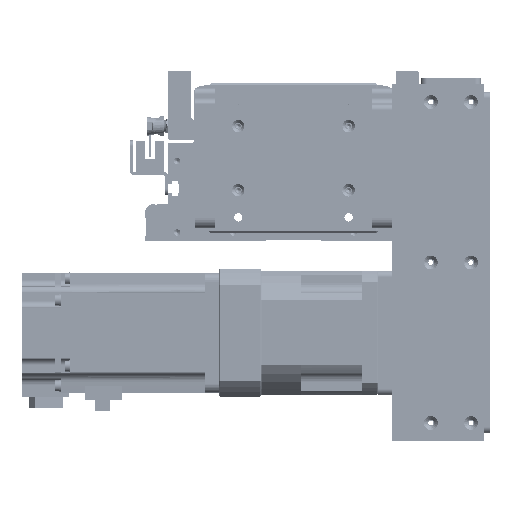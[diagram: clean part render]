
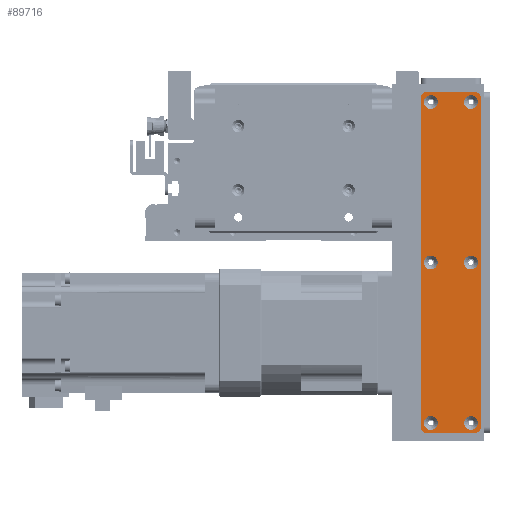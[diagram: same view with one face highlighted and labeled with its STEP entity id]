
A CAD part, front view. The second image highlights one B-rep face of the part: STEP entity #89716.
In plain terms, the highlighted planar face has unit normal (0, -1, 0).
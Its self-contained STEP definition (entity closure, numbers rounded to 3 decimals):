
#2672=FACE_BOUND('',#16628,.T.);
#2673=FACE_BOUND('',#16629,.T.);
#2674=FACE_BOUND('',#16630,.T.);
#2675=FACE_BOUND('',#16631,.T.);
#2676=FACE_BOUND('',#16632,.T.);
#2677=FACE_BOUND('',#16633,.T.);
#5465=CIRCLE('',#97845,3.45);
#5468=CIRCLE('',#97850,3.45);
#5471=CIRCLE('',#97855,3.45);
#5474=CIRCLE('',#97860,3.45);
#5477=CIRCLE('',#97865,3.45);
#5480=CIRCLE('',#97870,3.45);
#5483=CIRCLE('',#97875,3.);
#5485=CIRCLE('',#97878,3.);
#5486=CIRCLE('',#97879,3.);
#5487=CIRCLE('',#97880,3.);
#11223=FACE_OUTER_BOUND('',#16627,.T.);
#16627=EDGE_LOOP('',(#81864,#81865,#81866,#81867,#81868,#81869,#81870,#81871));
#16628=EDGE_LOOP('',(#81872));
#16629=EDGE_LOOP('',(#81873));
#16630=EDGE_LOOP('',(#81874));
#16631=EDGE_LOOP('',(#81875));
#16632=EDGE_LOOP('',(#81876));
#16633=EDGE_LOOP('',(#81877));
#26087=LINE('',#152508,#35540);
#26088=LINE('',#152512,#35541);
#26089=LINE('',#152516,#35542);
#26090=LINE('',#152519,#35543);
#35540=VECTOR('',#122232,10.);
#35541=VECTOR('',#122235,10.);
#35542=VECTOR('',#122238,10.);
#35543=VECTOR('',#122241,10.);
#43933=VERTEX_POINT('',#152438);
#43936=VERTEX_POINT('',#152448);
#43939=VERTEX_POINT('',#152458);
#43942=VERTEX_POINT('',#152468);
#43945=VERTEX_POINT('',#152478);
#43948=VERTEX_POINT('',#152488);
#43951=VERTEX_POINT('',#152498);
#43952=VERTEX_POINT('',#152499);
#43955=VERTEX_POINT('',#152507);
#43956=VERTEX_POINT('',#152509);
#43957=VERTEX_POINT('',#152511);
#43958=VERTEX_POINT('',#152513);
#43959=VERTEX_POINT('',#152515);
#43960=VERTEX_POINT('',#152517);
#56564=EDGE_CURVE('',#43933,#43933,#5465,.T.);
#56569=EDGE_CURVE('',#43936,#43936,#5468,.T.);
#56574=EDGE_CURVE('',#43939,#43939,#5471,.T.);
#56579=EDGE_CURVE('',#43942,#43942,#5474,.T.);
#56584=EDGE_CURVE('',#43945,#43945,#5477,.T.);
#56589=EDGE_CURVE('',#43948,#43948,#5480,.T.);
#56594=EDGE_CURVE('',#43951,#43952,#5483,.T.);
#56598=EDGE_CURVE('',#43951,#43955,#26087,.T.);
#56599=EDGE_CURVE('',#43956,#43955,#5485,.T.);
#56600=EDGE_CURVE('',#43956,#43957,#26088,.T.);
#56601=EDGE_CURVE('',#43958,#43957,#5486,.T.);
#56602=EDGE_CURVE('',#43958,#43959,#26089,.T.);
#56603=EDGE_CURVE('',#43960,#43959,#5487,.T.);
#56604=EDGE_CURVE('',#43960,#43952,#26090,.T.);
#81864=ORIENTED_EDGE('',*,*,#56594,.F.);
#81865=ORIENTED_EDGE('',*,*,#56598,.T.);
#81866=ORIENTED_EDGE('',*,*,#56599,.F.);
#81867=ORIENTED_EDGE('',*,*,#56600,.T.);
#81868=ORIENTED_EDGE('',*,*,#56601,.F.);
#81869=ORIENTED_EDGE('',*,*,#56602,.T.);
#81870=ORIENTED_EDGE('',*,*,#56603,.F.);
#81871=ORIENTED_EDGE('',*,*,#56604,.T.);
#81872=ORIENTED_EDGE('',*,*,#56564,.T.);
#81873=ORIENTED_EDGE('',*,*,#56569,.T.);
#81874=ORIENTED_EDGE('',*,*,#56574,.T.);
#81875=ORIENTED_EDGE('',*,*,#56579,.T.);
#81876=ORIENTED_EDGE('',*,*,#56584,.T.);
#81877=ORIENTED_EDGE('',*,*,#56589,.T.);
#85085=PLANE('',#97877);
#89716=ADVANCED_FACE('',(#11223,#2672,#2673,#2674,#2675,#2676,#2677),#85085,
 .T.);
#97845=AXIS2_PLACEMENT_3D('',#152439,#122152,#122153);
#97850=AXIS2_PLACEMENT_3D('',#152449,#122164,#122165);
#97855=AXIS2_PLACEMENT_3D('',#152459,#122176,#122177);
#97860=AXIS2_PLACEMENT_3D('',#152469,#122188,#122189);
#97865=AXIS2_PLACEMENT_3D('',#152479,#122200,#122201);
#97870=AXIS2_PLACEMENT_3D('',#152489,#122212,#122213);
#97875=AXIS2_PLACEMENT_3D('',#152500,#122224,#122225);
#97877=AXIS2_PLACEMENT_3D('',#152506,#122230,#122231);
#97878=AXIS2_PLACEMENT_3D('',#152510,#122233,#122234);
#97879=AXIS2_PLACEMENT_3D('',#152514,#122236,#122237);
#97880=AXIS2_PLACEMENT_3D('',#152518,#122239,#122240);
#122152=DIRECTION('center_axis',(0.,1.,0.));
#122153=DIRECTION('ref_axis',(1.,0.,0.));
#122164=DIRECTION('center_axis',(0.,1.,0.));
#122165=DIRECTION('ref_axis',(1.,0.,0.));
#122176=DIRECTION('center_axis',(0.,1.,0.));
#122177=DIRECTION('ref_axis',(1.,0.,0.));
#122188=DIRECTION('center_axis',(0.,1.,0.));
#122189=DIRECTION('ref_axis',(1.,0.,0.));
#122200=DIRECTION('center_axis',(0.,1.,0.));
#122201=DIRECTION('ref_axis',(1.,0.,0.));
#122212=DIRECTION('center_axis',(0.,1.,0.));
#122213=DIRECTION('ref_axis',(1.,0.,0.));
#122224=DIRECTION('center_axis',(0.,1.,0.));
#122225=DIRECTION('ref_axis',(-0.707,0.,0.707));
#122230=DIRECTION('center_axis',(0.,-1.,0.));
#122231=DIRECTION('ref_axis',(0.,0.,-1.));
#122232=DIRECTION('',(0.,0.,-1.));
#122233=DIRECTION('center_axis',(0.,1.,0.));
#122234=DIRECTION('ref_axis',(-0.707,0.,-0.707));
#122235=DIRECTION('',(1.,0.,0.));
#122236=DIRECTION('center_axis',(0.,1.,0.));
#122237=DIRECTION('ref_axis',(0.707,0.,-0.707));
#122238=DIRECTION('',(0.,0.,1.));
#122239=DIRECTION('center_axis',(0.,1.,0.));
#122240=DIRECTION('ref_axis',(0.707,0.,0.707));
#122241=DIRECTION('',(-1.,0.,0.));
#152438=CARTESIAN_POINT('',(76.55,-1.5,10.));
#152439=CARTESIAN_POINT('Origin',(80.,-1.5,10.));
#152448=CARTESIAN_POINT('',(-3.45,-1.5,-10.));
#152449=CARTESIAN_POINT('Origin',(0.,-1.5,-10.));
#152458=CARTESIAN_POINT('',(-83.45,-1.5,10.));
#152459=CARTESIAN_POINT('Origin',(-80.,-1.5,10.));
#152468=CARTESIAN_POINT('',(-83.45,-1.5,-10.));
#152469=CARTESIAN_POINT('Origin',(-80.,-1.5,-10.));
#152478=CARTESIAN_POINT('',(-3.45,-1.5,10.));
#152479=CARTESIAN_POINT('Origin',(0.,-1.5,10.));
#152488=CARTESIAN_POINT('',(76.55,-1.5,-10.));
#152489=CARTESIAN_POINT('Origin',(80.,-1.5,-10.));
#152498=CARTESIAN_POINT('',(-85.,-1.5,12.));
#152499=CARTESIAN_POINT('',(-82.,-1.5,15.));
#152500=CARTESIAN_POINT('Origin',(-82.,-1.5,12.));
#152506=CARTESIAN_POINT('Origin',(0.,-1.5,0.));
#152507=CARTESIAN_POINT('',(-85.,-1.5,-12.));
#152508=CARTESIAN_POINT('',(-85.,-1.5,15.));
#152509=CARTESIAN_POINT('',(-82.,-1.5,-15.));
#152510=CARTESIAN_POINT('Origin',(-82.,-1.5,-12.));
#152511=CARTESIAN_POINT('',(82.,-1.5,-15.));
#152512=CARTESIAN_POINT('',(-85.,-1.5,-15.));
#152513=CARTESIAN_POINT('',(85.,-1.5,-12.));
#152514=CARTESIAN_POINT('Origin',(82.,-1.5,-12.));
#152515=CARTESIAN_POINT('',(85.,-1.5,12.));
#152516=CARTESIAN_POINT('',(85.,-1.5,-15.));
#152517=CARTESIAN_POINT('',(82.,-1.5,15.));
#152518=CARTESIAN_POINT('Origin',(82.,-1.5,12.));
#152519=CARTESIAN_POINT('',(85.,-1.5,15.));
